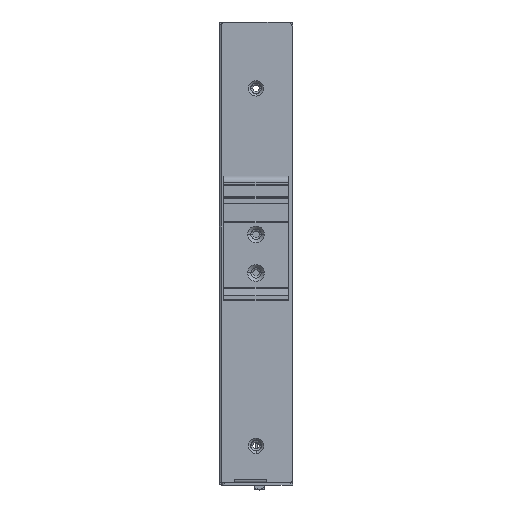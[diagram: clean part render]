
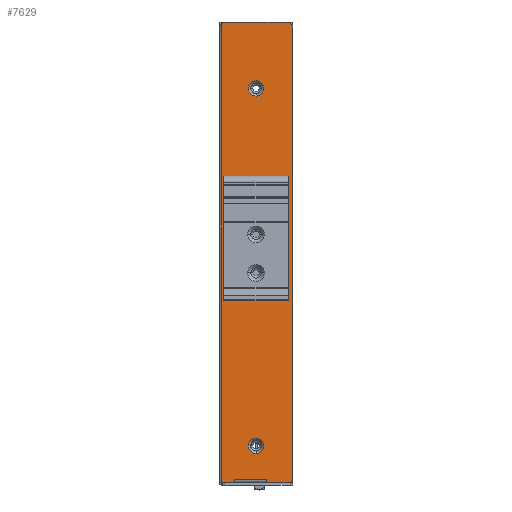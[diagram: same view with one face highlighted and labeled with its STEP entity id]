
A CAD part, left-side view. The second image highlights one B-rep face of the part: STEP entity #7629.
In plain terms, the highlighted planar face has unit normal (-1, 0, 0).
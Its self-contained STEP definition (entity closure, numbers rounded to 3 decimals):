
#725=CARTESIAN_POINT('',(-49.7,20.3,59.8));
#726=DIRECTION('',(1.,0.,0.));
#727=DIRECTION('',(0.,1.,0.));
#728=AXIS2_PLACEMENT_3D('',#725,#726,#727);
#730=CARTESIAN_POINT('',(-49.7,-3.7,58.3));
#731=DIRECTION('',(1.,0.,0.));
#732=DIRECTION('',(0.,0.,1.));
#733=AXIS2_PLACEMENT_3D('',#730,#731,#732);
#735=CARTESIAN_POINT('',(-49.7,-5.2,-117.3));
#736=DIRECTION('',(1.,0.,0.));
#737=DIRECTION('',(0.,-1.,0.));
#738=AXIS2_PLACEMENT_3D('',#735,#736,#737);
#740=CARTESIAN_POINT('',(-49.7,8.05,35.));
#741=DIRECTION('',(-1.,0.,0.));
#742=DIRECTION('',(0.,0.,-1.));
#743=AXIS2_PLACEMENT_3D('',#740,#741,#742);
#745=CARTESIAN_POINT('',(-49.7,8.05,35.));
#746=DIRECTION('',(-1.,0.,0.));
#747=DIRECTION('',(0.,0.,1.));
#748=AXIS2_PLACEMENT_3D('',#745,#746,#747);
#750=CARTESIAN_POINT('',(-49.7,8.05,-104.));
#751=DIRECTION('',(-1.,0.,0.));
#752=DIRECTION('',(0.,0.,-1.));
#753=AXIS2_PLACEMENT_3D('',#750,#751,#752);
#755=CARTESIAN_POINT('',(-49.7,8.05,-104.));
#756=DIRECTION('',(-1.,0.,0.));
#757=DIRECTION('',(0.,0.,1.));
#758=AXIS2_PLACEMENT_3D('',#755,#756,#757);
#760=DIRECTION('',(0.,0.,-1.));
#761=VECTOR('',#760,39.1);
#762=CARTESIAN_POINT('',(-49.7,-4.45,-6.6));
#763=LINE('',#762,#761);
#764=DIRECTION('',(0.,-1.,0.));
#765=VECTOR('',#764,25.);
#766=CARTESIAN_POINT('',(-49.7,20.55,-6.6));
#767=LINE('',#766,#765);
#768=DIRECTION('',(0.,0.,-1.));
#769=VECTOR('',#768,39.1);
#770=CARTESIAN_POINT('',(-49.7,20.55,-6.6));
#771=LINE('',#770,#769);
#772=DIRECTION('',(0.,1.,0.));
#773=VECTOR('',#772,25.);
#774=CARTESIAN_POINT('',(-49.7,-4.45,-45.7));
#775=LINE('',#774,#773);
#788=DIRECTION('',(0.,1.,0.));
#789=VECTOR('',#788,24.);
#790=CARTESIAN_POINT('',(-49.7,-3.7,60.8));
#791=LINE('',#790,#789);
#865=DIRECTION('',(0.,-1.,0.));
#866=VECTOR('',#865,5.);
#867=CARTESIAN_POINT('',(-49.7,21.3,-118.3));
#868=LINE('',#867,#866);
#877=DIRECTION('',(0.,0.,1.));
#878=VECTOR('',#877,1.);
#879=CARTESIAN_POINT('',(-49.7,16.3,-118.3));
#880=LINE('',#879,#878);
#890=DIRECTION('',(0.,-1.,0.));
#891=VECTOR('',#890,12.5);
#892=CARTESIAN_POINT('',(-49.7,16.3,-117.3));
#893=LINE('',#892,#891);
#939=DIRECTION('',(0.,0.,-1.));
#940=VECTOR('',#939,1.);
#941=CARTESIAN_POINT('',(-49.7,3.8,-117.3));
#942=LINE('',#941,#940);
#951=DIRECTION('',(0.,-1.,0.));
#952=VECTOR('',#951,9.);
#953=CARTESIAN_POINT('',(-49.7,3.8,-118.3));
#954=LINE('',#953,#952);
#963=DIRECTION('',(0.,0.,1.));
#964=VECTOR('',#963,175.6);
#965=CARTESIAN_POINT('',(-49.7,-6.2,-117.3));
#966=LINE('',#965,#964);
#1971=DIRECTION('',(0.,0.,-1.));
#1972=VECTOR('',#1971,178.1);
#1973=CARTESIAN_POINT('',(-49.7,21.3,59.8));
#1974=LINE('',#1973,#1972);
#6430=CARTESIAN_POINT('',(-49.7,21.3,59.8));
#6431=VERTEX_POINT('',#6430);
#6432=CARTESIAN_POINT('',(-49.7,8.05,-107.));
#6433=CARTESIAN_POINT('',(-49.7,8.05,-101.));
#6434=VERTEX_POINT('',#6432);
#6435=VERTEX_POINT('',#6433);
#6436=CARTESIAN_POINT('',(-49.7,8.05,32.));
#6437=CARTESIAN_POINT('',(-49.7,8.05,38.));
#6438=VERTEX_POINT('',#6436);
#6439=VERTEX_POINT('',#6437);
#6440=CARTESIAN_POINT('',(-49.7,20.3,60.8));
#6441=VERTEX_POINT('',#6440);
#6442=CARTESIAN_POINT('',(-49.7,-3.7,60.8));
#6443=VERTEX_POINT('',#6442);
#6444=CARTESIAN_POINT('',(-49.7,-6.2,58.3));
#6445=VERTEX_POINT('',#6444);
#6446=CARTESIAN_POINT('',(-49.7,-6.2,-117.3));
#6447=VERTEX_POINT('',#6446);
#6448=CARTESIAN_POINT('',(-49.7,-5.2,-118.3));
#6449=VERTEX_POINT('',#6448);
#6450=CARTESIAN_POINT('',(-49.7,3.8,-118.3));
#6451=VERTEX_POINT('',#6450);
#6452=CARTESIAN_POINT('',(-49.7,3.8,-117.3));
#6453=VERTEX_POINT('',#6452);
#6454=CARTESIAN_POINT('',(-49.7,16.3,-118.3));
#6455=CARTESIAN_POINT('',(-49.7,16.3,-117.3));
#6456=VERTEX_POINT('',#6454);
#6457=VERTEX_POINT('',#6455);
#6458=CARTESIAN_POINT('',(-49.7,21.3,-118.3));
#6459=VERTEX_POINT('',#6458);
#6810=CARTESIAN_POINT('',(-49.7,-4.45,-6.6));
#6811=CARTESIAN_POINT('',(-49.7,-4.45,-45.7));
#6812=VERTEX_POINT('',#6810);
#6813=VERTEX_POINT('',#6811);
#6814=CARTESIAN_POINT('',(-49.7,20.55,-6.6));
#6815=CARTESIAN_POINT('',(-49.7,20.55,-45.7));
#6816=VERTEX_POINT('',#6814);
#6817=VERTEX_POINT('',#6815);
#7579=CARTESIAN_POINT('',(-49.7,7.55,-28.75));
#7580=DIRECTION('',(1.,0.,0.));
#7581=DIRECTION('',(0.,0.,-1.));
#7582=AXIS2_PLACEMENT_3D('',#7579,#7580,#7581);
#7583=PLANE('',#7582);
#7584=ORIENTED_EDGE('',*,*,#7562,.T.);
#7586=ORIENTED_EDGE('',*,*,#7585,.F.);
#7588=ORIENTED_EDGE('',*,*,#7587,.T.);
#7590=ORIENTED_EDGE('',*,*,#7589,.F.);
#7592=ORIENTED_EDGE('',*,*,#7591,.T.);
#7594=ORIENTED_EDGE('',*,*,#7593,.F.);
#7596=ORIENTED_EDGE('',*,*,#7595,.F.);
#7598=ORIENTED_EDGE('',*,*,#7597,.F.);
#7600=ORIENTED_EDGE('',*,*,#7599,.F.);
#7602=ORIENTED_EDGE('',*,*,#7601,.F.);
#7604=ORIENTED_EDGE('',*,*,#7603,.F.);
#7605=EDGE_LOOP('',(#7584,#7586,#7588,#7590,#7592,#7594,#7596,#7598,#7600,#7602,
#7604));
#7606=FACE_OUTER_BOUND('',#7605,.F.);
#7608=ORIENTED_EDGE('',*,*,#7607,.T.);
#7610=ORIENTED_EDGE('',*,*,#7609,.T.);
#7611=EDGE_LOOP('',(#7608,#7610));
#7612=FACE_BOUND('',#7611,.F.);
#7614=ORIENTED_EDGE('',*,*,#7613,.T.);
#7616=ORIENTED_EDGE('',*,*,#7615,.T.);
#7617=EDGE_LOOP('',(#7614,#7616));
#7618=FACE_BOUND('',#7617,.F.);
#7620=ORIENTED_EDGE('',*,*,#7619,.F.);
#7622=ORIENTED_EDGE('',*,*,#7621,.F.);
#7624=ORIENTED_EDGE('',*,*,#7623,.T.);
#7626=ORIENTED_EDGE('',*,*,#7625,.F.);
#7627=EDGE_LOOP('',(#7620,#7622,#7624,#7626));
#7628=FACE_BOUND('',#7627,.F.);
#729=CIRCLE('',#728,1.);
#734=CIRCLE('',#733,2.5);
#739=CIRCLE('',#738,1.);
#744=CIRCLE('',#743,3.);
#749=CIRCLE('',#748,3.);
#754=CIRCLE('',#753,3.);
#759=CIRCLE('',#758,3.);
#7562=EDGE_CURVE('',#6431,#6441,#729,.T.);
#7585=EDGE_CURVE('',#6443,#6441,#791,.T.);
#7587=EDGE_CURVE('',#6443,#6445,#734,.T.);
#7589=EDGE_CURVE('',#6447,#6445,#966,.T.);
#7591=EDGE_CURVE('',#6447,#6449,#739,.T.);
#7593=EDGE_CURVE('',#6451,#6449,#954,.T.);
#7595=EDGE_CURVE('',#6453,#6451,#942,.T.);
#7597=EDGE_CURVE('',#6457,#6453,#893,.T.);
#7599=EDGE_CURVE('',#6456,#6457,#880,.T.);
#7601=EDGE_CURVE('',#6459,#6456,#868,.T.);
#7603=EDGE_CURVE('',#6431,#6459,#1974,.T.);
#7607=EDGE_CURVE('',#6438,#6439,#744,.T.);
#7609=EDGE_CURVE('',#6439,#6438,#749,.T.);
#7613=EDGE_CURVE('',#6434,#6435,#754,.T.);
#7615=EDGE_CURVE('',#6435,#6434,#759,.T.);
#7619=EDGE_CURVE('',#6812,#6813,#763,.T.);
#7621=EDGE_CURVE('',#6816,#6812,#767,.T.);
#7623=EDGE_CURVE('',#6816,#6817,#771,.T.);
#7625=EDGE_CURVE('',#6813,#6817,#775,.T.);
#7629=ADVANCED_FACE('',(#7606,#7612,#7618,#7628),#7583,.F.);
